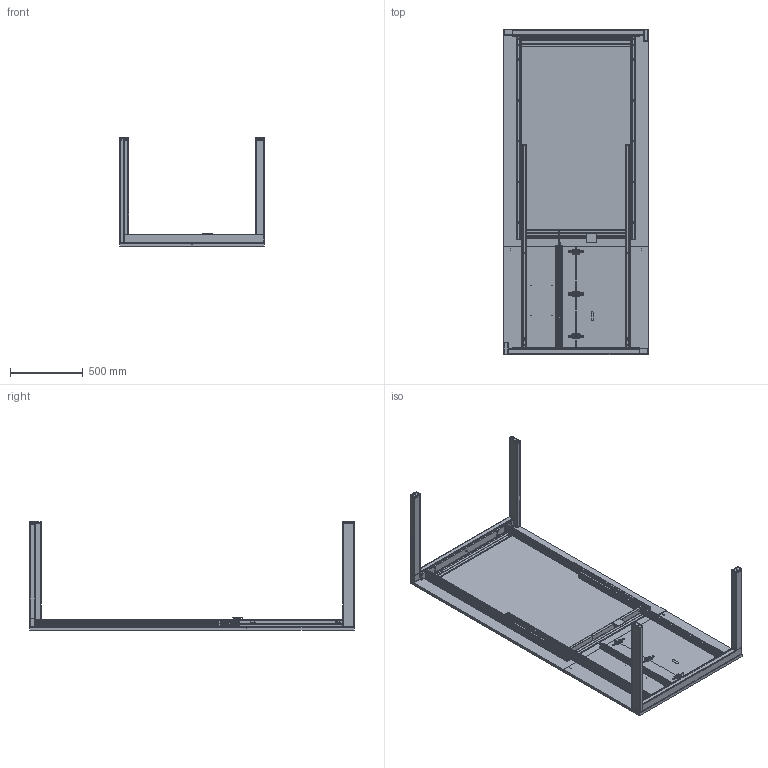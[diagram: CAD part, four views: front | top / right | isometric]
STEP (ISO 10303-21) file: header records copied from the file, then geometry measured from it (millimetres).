
FILE_DESCRIPTION (( 'STEP AP203' ), '1' );
FILE_NAME ('T allungami fenix L150.STEP', '2026-10-06T13:35:31', ( '' ), ( '' ), 'SwSTEP 2.0', 'SolidWorks 2023', '' );
FILE_SCHEMA (( 'CONFIG_CONTROL_DESIGN' ));
Length unit declared in the file: millimetre
Products named in the file (36): 0009612_Atim - frein (3); 0009530_010 - ; 000913a_020 - Coulisse Atim - Allungami 2 brins - plat mobile; 00092f7_Coulisse Atim - vis liaison entretoise; 000912b_300 - Coulisse Allungami grès L150 ouverte; 000fee1_010-Allonge L75 Fenix noir + stratifié lisse - Gauche; 000952f; 000930a_Coulisse Atim - vis plat + noix jonction; 0009309_Coulisse Atim - noix de jonction; 000a0de_Charnière grès dépliée; 000960b_Atim - dôme de réglage (1); 0009262_pied perle Allungami; 000952d; 000915d_010 - Coulisse Atim - Allungami L150 - oméga ; 0009110_ 060 - Coulisse Atim - Allungami L150 - brin mobile droit ; 000930b_Coulisse Atim - vis brin+noix jonction; 0009124_Coulisse Atim - cache A; 000960d_Atim - dôme de réglage (3); 0009132_Coulisse Atim - cache B; 000960c_Atim - dôme de réglage (2); 000960e_Atim - dôme de réglage ; 0009611_Atim - frein (2); 0009110_020 - Coulisse Atim - Allungami L150 - brin fixe droit ; 0009610_Atim - frein (1); 0008e34_Coulisse Atim - Allungami L150 - axe allonge; 0009613_Atim - frein; T allungami fenix L150; 00092d3_010 - Coulisse Atim - Allungami L150 - câle oméga ; 000fedf_010-Allonge L75 Fenix noir + stratifié lisse - Droite; 000952e; 00092d2_Coulisse Atim - plôt réglage axe allonges; 0009159_010 - Coulisse Atim - 2 brins - entretoise; 0009110_010 - Coulisse Atim - Allungami L150 - brin fixe gauche ; 0009110_050 - Coulisse Atim - Allungami L150 - brin mobile gauche ; 000913a_010 - Coulisse Atim - Allungami 2 brins - plat fixe; 000fedb_010-Plateau L149 Fenix noir + stratifié lisse
Assembly tree (62 placements, depth 4):
  T allungami fenix L150
    000fedb_010-Plateau L149 Fenix noir + stratifié lisse
    000fedf_010-Allonge L75 Fenix noir + stratifié lisse - Droite
    000fee1_010-Allonge L75 Fenix noir + stratifié lisse - Gauche
    000912b_300 - Coulisse Allungami grès L150 ouverte
      0009110_020 - Coulisse Atim - Allungami L150 - brin fixe droit 
      0009110_050 - Coulisse Atim - Allungami L150 - brin mobile gauche 
      0009132_Coulisse Atim - cache B  x2
      0009110_ 060 - Coulisse Atim - Allungami L150 - brin mobile droit 
      0009124_Coulisse Atim - cache A  x2
      000913a_020 - Coulisse Atim - Allungami 2 brins - plat mobile
      000913a_010 - Coulisse Atim - Allungami 2 brins - plat fixe
      0009110_010 - Coulisse Atim - Allungami L150 - brin fixe gauche 
      0009159_010 - Coulisse Atim - 2 brins - entretoise
      0008e34_Coulisse Atim - Allungami L150 - axe allonge
      00092d2_Coulisse Atim - plôt réglage axe allonges
      00092f7_Coulisse Atim - vis liaison entretoise  x2
      0009309_Coulisse Atim - noix de jonction  x4
      000930b_Coulisse Atim - vis brin+noix jonction  x8
      000930a_Coulisse Atim - vis plat + noix jonction  x8
      000915d_010 - Coulisse Atim - Allungami L150 - oméga 
      00092d3_010 - Coulisse Atim - Allungami L150 - câle oméga 
      0009530_010 - 
        000952d
        000952e
        000952f
      000960e_Atim - dôme de réglage   x4
        000960d_Atim - dôme de réglage (3)
        000960c_Atim - dôme de réglage (2)
        000960b_Atim - dôme de réglage (1)
      0009613_Atim - frein  x2
        0009611_Atim - frein (2)
        0009610_Atim - frein (1)
        0009612_Atim - frein (3)
    0009262_pied perle Allungami  x2
    000a0de_Charnière grès dépliée  x3
Bounding box: 994.2 x 2233 x 743.5 mm (x, y, z)
Volume: 51617554 mm3; surface area: 9439671.8 mm2
Topology: 85 solids, 85 shells, 6186 faces, 15702 edges, 9714 vertices
Faces by surface type: cylinder 2966, plane 1814, cone 610, torus 410, bspline 254, sphere 132
Entity records: 119197 total; most frequent: CARTESIAN_POINT 25564, DIRECTION 19472, ORIENTED_EDGE 18530, EDGE_CURVE 9265, AXIS2_PLACEMENT_3D 7514, VERTEX_POINT 5921, LINE 4444, VECTOR 4444
